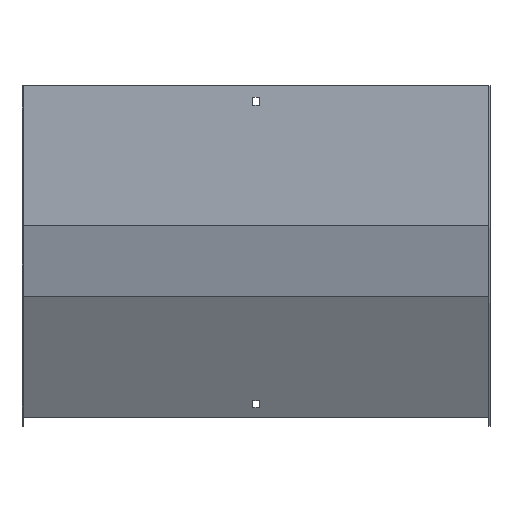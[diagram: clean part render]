
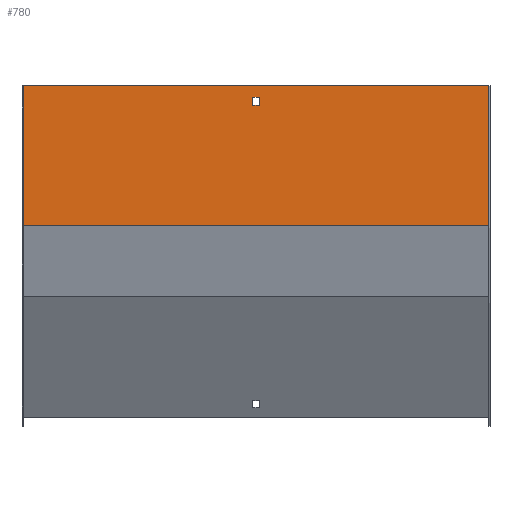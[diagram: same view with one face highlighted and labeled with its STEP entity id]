
A CAD part, front view. The second image highlights one B-rep face of the part: STEP entity #780.
In plain terms, the highlighted planar face has unit normal (0, -1, 0).
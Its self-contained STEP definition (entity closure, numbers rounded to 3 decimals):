
#29 = LINE ( 'NONE', #239, #418 ) ;
#31 = ORIENTED_EDGE ( 'NONE', *, *, #757, .T. ) ;
#32 = VECTOR ( 'NONE', #522, 1000. ) ;
#47 = CARTESIAN_POINT ( 'NONE',  ( 251.5, -1.5, 0. ) ) ;
#88 = LINE ( 'NONE', #352, #576 ) ;
#96 = DIRECTION ( 'NONE',  ( 0., 0., 1. ) ) ;
#99 = DIRECTION ( 'NONE',  ( 0., 1., 0. ) ) ;
#101 = VERTEX_POINT ( 'NONE', #343 ) ;
#103 = DIRECTION ( 'NONE',  ( -1., 0., 0. ) ) ;
#104 = DIRECTION ( 'NONE',  ( -1., 0., 0. ) ) ;
#106 = CARTESIAN_POINT ( 'NONE',  ( 251.5, -1.5, 0. ) ) ;
#110 = VECTOR ( 'NONE', #103, 1000. ) ;
#113 = LINE ( 'NONE', #512, #173 ) ;
#114 = VERTEX_POINT ( 'NONE', #652 ) ;
#126 = CARTESIAN_POINT ( 'NONE',  ( -3.25, -1.5, 0. ) ) ;
#133 = VERTEX_POINT ( 'NONE', #415 ) ;
#162 = DIRECTION ( 'NONE',  ( -1., 0., 0. ) ) ;
#173 = VECTOR ( 'NONE', #104, 1000. ) ;
#177 = EDGE_CURVE ( 'NONE', #766, #114, #267, .T. ) ;
#221 = VERTEX_POINT ( 'NONE', #276 ) ;
#239 = CARTESIAN_POINT ( 'NONE',  ( 3.25, -1.5, 0. ) ) ;
#267 = LINE ( 'NONE', #496, #281 ) ;
#276 = CARTESIAN_POINT ( 'NONE',  ( 3.25, -1.5, -12. ) ) ;
#281 = VECTOR ( 'NONE', #629, 1000. ) ;
#295 = DIRECTION ( 'NONE',  ( 0., 0., 1. ) ) ;
#310 = PLANE ( 'NONE',  #698 ) ;
#313 = EDGE_CURVE ( 'NONE', #826, #101, #113, .T. ) ;
#325 = LINE ( 'NONE', #587, #32 ) ;
#343 = CARTESIAN_POINT ( 'NONE',  ( -250., -1.5, -150.097 ) ) ;
#352 = CARTESIAN_POINT ( 'NONE',  ( 250., -1.5, 0. ) ) ;
#362 = FACE_BOUND ( 'NONE', #630, .T. ) ;
#399 = ORIENTED_EDGE ( 'NONE', *, *, #817, .F. ) ;
#415 = CARTESIAN_POINT ( 'NONE',  ( -3.25, -1.5, -12. ) ) ;
#418 = VECTOR ( 'NONE', #295, 1000. ) ;
#438 = FACE_OUTER_BOUND ( 'NONE', #822, .T. ) ;
#452 = EDGE_CURVE ( 'NONE', #842, #101, #325, .T. ) ;
#455 = ORIENTED_EDGE ( 'NONE', *, *, #618, .F. ) ;
#471 = EDGE_CURVE ( 'NONE', #133, #766, #720, .T. ) ;
#478 = VERTEX_POINT ( 'NONE', #584 ) ;
#496 = CARTESIAN_POINT ( 'NONE',  ( 251.5, -1.5, -21. ) ) ;
#512 = CARTESIAN_POINT ( 'NONE',  ( 251.5, -1.5, -150.097 ) ) ;
#522 = DIRECTION ( 'NONE',  ( 0., 0., -1. ) ) ;
#535 = VECTOR ( 'NONE', #162, 1000. ) ;
#576 = VECTOR ( 'NONE', #625, 1000. ) ;
#584 = CARTESIAN_POINT ( 'NONE',  ( 250., -1.5, 0. ) ) ;
#587 = CARTESIAN_POINT ( 'NONE',  ( -250., -1.5, 0. ) ) ;
#592 = ORIENTED_EDGE ( 'NONE', *, *, #471, .F. ) ;
#618 = EDGE_CURVE ( 'NONE', #478, #826, #88, .T. ) ;
#625 = DIRECTION ( 'NONE',  ( 0., 0., -1. ) ) ;
#627 = ORIENTED_EDGE ( 'NONE', *, *, #452, .T. ) ;
#629 = DIRECTION ( 'NONE',  ( 1., 0., 0. ) ) ;
#630 = EDGE_LOOP ( 'NONE', ( #399, #710, #592, #849 ) ) ;
#632 = LINE ( 'NONE', #702, #110 ) ;
#652 = CARTESIAN_POINT ( 'NONE',  ( 3.25, -1.5, -21. ) ) ;
#658 = DIRECTION ( 'NONE',  ( 0., 0., -1. ) ) ;
#659 = VECTOR ( 'NONE', #658, 1000. ) ;
#698 = AXIS2_PLACEMENT_3D ( 'NONE', #106, #99, #96 ) ;
#702 = CARTESIAN_POINT ( 'NONE',  ( 251.5, -1.5, -12. ) ) ;
#708 = CARTESIAN_POINT ( 'NONE',  ( -3.25, -1.5, -21. ) ) ;
#710 = ORIENTED_EDGE ( 'NONE', *, *, #177, .F. ) ;
#720 = LINE ( 'NONE', #126, #659 ) ;
#757 = EDGE_CURVE ( 'NONE', #478, #842, #762, .T. ) ;
#762 = LINE ( 'NONE', #47, #535 ) ;
#766 = VERTEX_POINT ( 'NONE', #708 ) ;
#772 = CARTESIAN_POINT ( 'NONE',  ( 250., -1.5, -150.097 ) ) ;
#780 = ADVANCED_FACE ( 'NONE', ( #438, #362 ), #310, .F. ) ;
#782 = CARTESIAN_POINT ( 'NONE',  ( -250., -1.5, 0. ) ) ;
#787 = EDGE_CURVE ( 'NONE', #221, #133, #632, .T. ) ;
#796 = ORIENTED_EDGE ( 'NONE', *, *, #313, .F. ) ;
#817 = EDGE_CURVE ( 'NONE', #114, #221, #29, .T. ) ;
#822 = EDGE_LOOP ( 'NONE', ( #627, #796, #455, #31 ) ) ;
#826 = VERTEX_POINT ( 'NONE', #772 ) ;
#842 = VERTEX_POINT ( 'NONE', #782 ) ;
#849 = ORIENTED_EDGE ( 'NONE', *, *, #787, .F. ) ;
